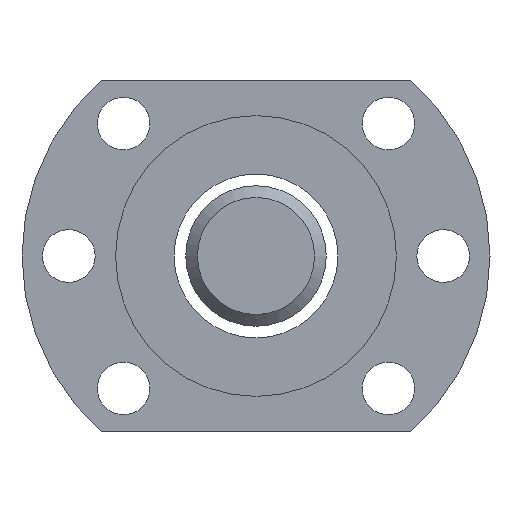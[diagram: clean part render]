
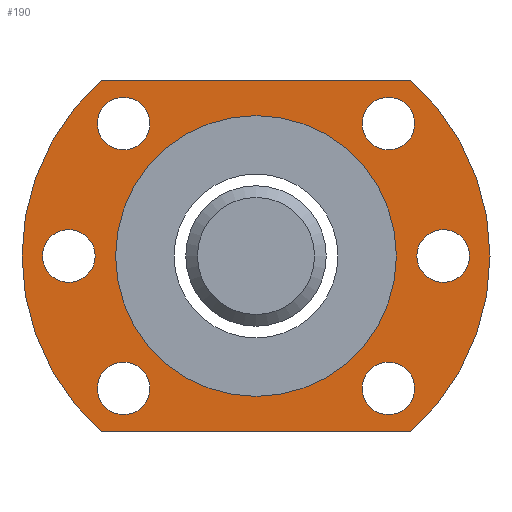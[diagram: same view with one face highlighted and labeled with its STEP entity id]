
A CAD part, left-side view. The second image highlights one B-rep face of the part: STEP entity #190.
In plain terms, the highlighted planar face has unit normal (-1, 0, 0).
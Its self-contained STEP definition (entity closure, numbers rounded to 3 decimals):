
#103=LINE('',#635,#111);
#104=LINE('',#639,#112);
#111=VECTOR('',#538,1.);
#112=VECTOR('',#541,1.);
#159=FACE_BOUND('',#241,.T.);
#160=FACE_BOUND('',#242,.T.);
#161=FACE_BOUND('',#243,.T.);
#162=FACE_BOUND('',#244,.T.);
#163=FACE_BOUND('',#245,.T.);
#164=FACE_BOUND('',#246,.T.);
#165=FACE_BOUND('',#247,.T.);
#166=FACE_BOUND('',#248,.T.);
#190=ADVANCED_FACE('',(#159,#160,#161,#162,#163,#164,#165,#166),#206,.T.);
#206=PLANE('',#461);
#241=EDGE_LOOP('',(#294));
#242=EDGE_LOOP('',(#295));
#243=EDGE_LOOP('',(#296,#297,#298,#299));
#244=EDGE_LOOP('',(#300));
#245=EDGE_LOOP('',(#301));
#246=EDGE_LOOP('',(#302));
#247=EDGE_LOOP('',(#303));
#248=EDGE_LOOP('',(#304));
#294=ORIENTED_EDGE('',*,*,#383,.T.);
#295=ORIENTED_EDGE('',*,*,#372,.F.);
#296=ORIENTED_EDGE('',*,*,#384,.T.);
#297=ORIENTED_EDGE('',*,*,#385,.T.);
#298=ORIENTED_EDGE('',*,*,#386,.T.);
#299=ORIENTED_EDGE('',*,*,#387,.T.);
#300=ORIENTED_EDGE('',*,*,#388,.F.);
#301=ORIENTED_EDGE('',*,*,#389,.F.);
#302=ORIENTED_EDGE('',*,*,#390,.F.);
#303=ORIENTED_EDGE('',*,*,#391,.T.);
#304=ORIENTED_EDGE('',*,*,#392,.T.);
#342=VERTEX_POINT('',#607);
#353=VERTEX_POINT('',#631);
#354=VERTEX_POINT('',#633);
#355=VERTEX_POINT('',#634);
#356=VERTEX_POINT('',#636);
#357=VERTEX_POINT('',#638);
#358=VERTEX_POINT('',#641);
#359=VERTEX_POINT('',#643);
#360=VERTEX_POINT('',#645);
#361=VERTEX_POINT('',#647);
#362=VERTEX_POINT('',#649);
#372=EDGE_CURVE('',#342,#342,#406,.T.);
#383=EDGE_CURVE('',#353,#353,#415,.T.);
#384=EDGE_CURVE('',#354,#355,#416,.T.);
#385=EDGE_CURVE('',#355,#356,#103,.T.);
#386=EDGE_CURVE('',#356,#357,#417,.T.);
#387=EDGE_CURVE('',#357,#354,#104,.T.);
#388=EDGE_CURVE('',#358,#358,#418,.T.);
#389=EDGE_CURVE('',#359,#359,#419,.T.);
#390=EDGE_CURVE('',#360,#360,#420,.T.);
#391=EDGE_CURVE('',#361,#361,#421,.T.);
#392=EDGE_CURVE('',#362,#362,#422,.T.);
#406=CIRCLE('',#442,12.);
#415=CIRCLE('',#453,2.25);
#416=CIRCLE('',#454,20.);
#417=CIRCLE('',#455,20.);
#418=CIRCLE('',#456,2.25);
#419=CIRCLE('',#457,2.25);
#420=CIRCLE('',#458,2.25);
#421=CIRCLE('',#459,2.25);
#422=CIRCLE('',#460,2.25);
#442=AXIS2_PLACEMENT_3D('',#606,#510,#511);
#453=AXIS2_PLACEMENT_3D('',#630,#534,#535);
#454=AXIS2_PLACEMENT_3D('',#632,#536,#537);
#455=AXIS2_PLACEMENT_3D('',#637,#539,#540);
#456=AXIS2_PLACEMENT_3D('',#640,#542,#543);
#457=AXIS2_PLACEMENT_3D('',#642,#544,#545);
#458=AXIS2_PLACEMENT_3D('',#644,#546,#547);
#459=AXIS2_PLACEMENT_3D('',#646,#548,#549);
#460=AXIS2_PLACEMENT_3D('',#648,#550,#551);
#461=AXIS2_PLACEMENT_3D('',#650,#552,#553);
#510=DIRECTION('',(-1.,0.,0.));
#511=DIRECTION('',(0.,0.,-1.));
#534=DIRECTION('',(1.,0.,0.));
#535=DIRECTION('',(0.,0.,1.));
#536=DIRECTION('',(-1.,0.,0.));
#537=DIRECTION('',(0.,0.,-1.));
#538=DIRECTION('',(0.,-1.,0.));
#539=DIRECTION('',(-1.,0.,0.));
#540=DIRECTION('',(0.,0.,-1.));
#541=DIRECTION('',(0.,1.,0.));
#542=DIRECTION('',(-1.,0.,0.));
#543=DIRECTION('',(0.,0.,1.));
#544=DIRECTION('',(-1.,0.,0.));
#545=DIRECTION('',(0.,0.,1.));
#546=DIRECTION('',(-1.,0.,0.));
#547=DIRECTION('',(0.,0.,1.));
#548=DIRECTION('',(1.,0.,0.));
#549=DIRECTION('',(0.,0.,1.));
#550=DIRECTION('',(1.,0.,0.));
#551=DIRECTION('',(0.,0.,1.));
#552=DIRECTION('',(-1.,0.,0.));
#553=DIRECTION('',(0.,0.,1.));
#606=CARTESIAN_POINT('',(-68.892,-68.867,-23.275));
#607=CARTESIAN_POINT('',(-68.892,-68.867,-35.275));
#630=CARTESIAN_POINT('',(-68.892,-84.867,-23.275));
#631=CARTESIAN_POINT('',(-68.892,-84.867,-21.025));
#632=CARTESIAN_POINT('',(-68.892,-68.867,-23.275));
#633=CARTESIAN_POINT('',(-68.892,-55.639,-8.275));
#634=CARTESIAN_POINT('',(-68.892,-55.639,-38.275));
#635=CARTESIAN_POINT('',(-68.892,-55.639,-38.275));
#636=CARTESIAN_POINT('',(-68.892,-82.096,-38.275));
#637=CARTESIAN_POINT('',(-68.892,-68.867,-23.275));
#638=CARTESIAN_POINT('',(-68.892,-82.096,-8.275));
#639=CARTESIAN_POINT('',(-68.892,-82.096,-8.275));
#640=CARTESIAN_POINT('',(-68.892,-52.867,-23.275));
#641=CARTESIAN_POINT('',(-68.892,-52.867,-21.025));
#642=CARTESIAN_POINT('',(-68.892,-57.554,-11.961));
#643=CARTESIAN_POINT('',(-68.892,-57.554,-9.711));
#644=CARTESIAN_POINT('',(-68.892,-57.554,-34.589));
#645=CARTESIAN_POINT('',(-68.892,-57.554,-32.339));
#646=CARTESIAN_POINT('',(-68.892,-80.181,-34.589));
#647=CARTESIAN_POINT('',(-68.892,-80.181,-32.339));
#648=CARTESIAN_POINT('',(-68.892,-80.181,-11.961));
#649=CARTESIAN_POINT('',(-68.892,-80.181,-9.711));
#650=CARTESIAN_POINT('',(-68.892,-68.867,-23.275));
